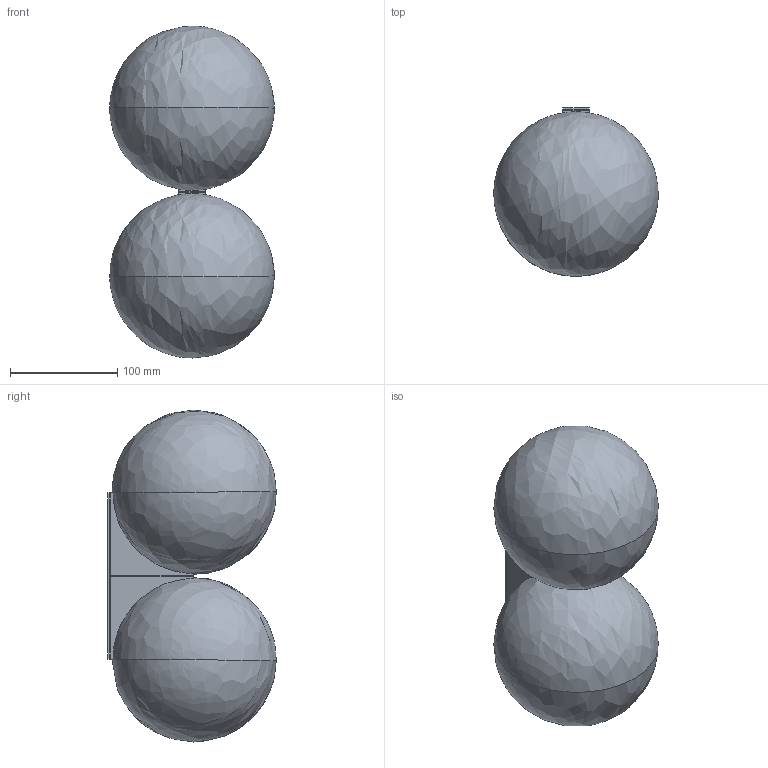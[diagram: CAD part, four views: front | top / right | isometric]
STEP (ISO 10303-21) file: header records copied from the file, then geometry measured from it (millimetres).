
FILE_DESCRIPTION(/* description */ (''),/* implementation_level */ '2;1');
FILE_NAME(/* name */ 'MA_BAC DS150_240V_2017',/* time_stamp */ '2020-12-02T11:38:47+00:00',/* author */ (''),/* organization */ (''),/* preprocessor_version */ 'ST-DEVELOPER v15',/* originating_system */ '',/* authorisation */ '');
FILE_SCHEMA (('AUTOMOTIVE_DESIGN'));
Length unit declared in the file: millimetre
Products named in the file (1): Document
Bounding box: 153.45 x 157.44 x 309.89 mm (x, y, z)
Surface area: 159275.1 mm2 (no closed solid volume)
Topology: 0 solids, 1 shells, 28 faces, 100 edges, 62 vertices
Faces by surface type: plane 24, bspline 4
Entity records: 1127 total; most frequent: CARTESIAN_POINT 568, ORIENTED_EDGE 160, EDGE_CURVE 92, VERTEX_POINT 62, B_SPLINE_CURVE_WITH_KNOTS 60, EDGE_LOOP 30, ADVANCED_FACE 28, FACE_OUTER_BOUND 28
